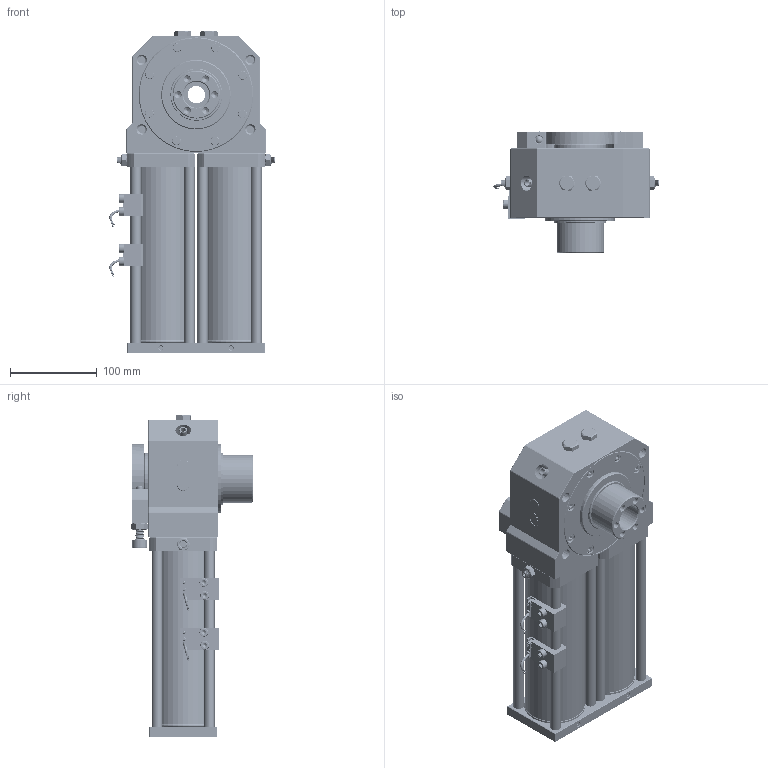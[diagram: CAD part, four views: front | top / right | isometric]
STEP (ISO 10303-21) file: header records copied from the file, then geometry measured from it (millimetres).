
FILE_DESCRIPTION((''),'2;1');
FILE_NAME('C:\Users\RND-KDY\Desktop\RJC\RJC63-180_190409.stp','2019-04-09T10:27:40',('RND-KDY'),(''),'Autodesk Inventor 2013','Autodesk Inventor 2013','');
FILE_SCHEMA(('AUTOMOTIVE_DESIGN { 1 0 10303 214 1 1 1 1 }'));
Length unit declared in the file: millimetre
Products named in the file (72): RJC63-180_190409; Part1; Part2; Part18; Part19; Part20; Part21; Part35; Part40; Part42; Part43; Part44; Part48; Part49; Part53; Part68; Part69; Part70; RJC63-90~12A_190401; 조립품2; Part25; Part26; Part27; Part28; RJC63-90~04_190401; 조립품4; Part3; Part4; Part5; Part6; Part7; Part8; Part9; Part10; Part11; Part61; Part62; Part63; Part67_1; RJC63-90~07_190401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
Assembly tree (81 placements, depth 5):
  RJC63-180_190409
    Part1
    Part2
    Part18
    Part19
    Part20
    Part21
    Part35
    Part40
    Part42
    Part43
    Part44
    Part48
    Part49
    Part53
    Part68
    Part69
    Part70
    RJC63-90~12A_190401
    조립품2
      Part25
      Part26
      Part27
      Part28
    RJC63-90~04_190401
    조립품4
      Part3
      Part4
      Part5
      Part6
      Part7
      Part8
      Part9
      Part10
      Part11
      Part61
      Part62
      Part63
      Part67_1
    RJC63-90~07_190401  x2
    RJC63-90~08_190401  x8
    j01n  x2
      조립품9
        어셈블리7_MIR
          HOUSING_MIR
          파트7_MIR
          Part51_MIR
          Part57_MIR
          Part57_1_MIR
          파트19_MIR
          3DM306_MIR
          파트30_MIR
        ISO 4762 M6 x 10  x2
        부품87
    조립품8
      Part12
      Part13
      Part14
      Part15
      Part16
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Bounding box: 190.29 x 139.81 x 371 mm (x, y, z)
Volume: 2438038.6 mm3; surface area: 625071.4 mm2
Topology: 97 solids, 97 shells, 5101 faces, 11259 edges, 6690 vertices
Faces by surface type: plane 3170, cone 908, cylinder 833, bspline 127, torus 47, sphere 16
Full cylindrical faces by diameter (mm): 2.1 x2, 2.8 x2, 3 x5, 3.12 x10, 3.8 x10, 4.134 x38, 4.16 x12, 4.917 x5, 5 x36, 5.2 x4, 6 x5, 6.5 x8, 6.614 x20, 6.647 x6, 7 x1, 8 x46, 8.268 x218, 8.5 x16, 9 x6, 10 x228, 10.2 x10, 11 x10, 12 x8, 13.6 x12, 14 x12, 17 x6, 18 x1, 20 x1, 28 x1, 30 x2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
Entity records: 126245 total; most frequent: CARTESIAN_POINT 23089, DIRECTION 20436, ORIENTED_EDGE 18022, EDGE_CURVE 9011, EDGE_LOOP 6872, AXIS2_PLACEMENT_3D 6870, VECTOR 6696, LINE 6696
